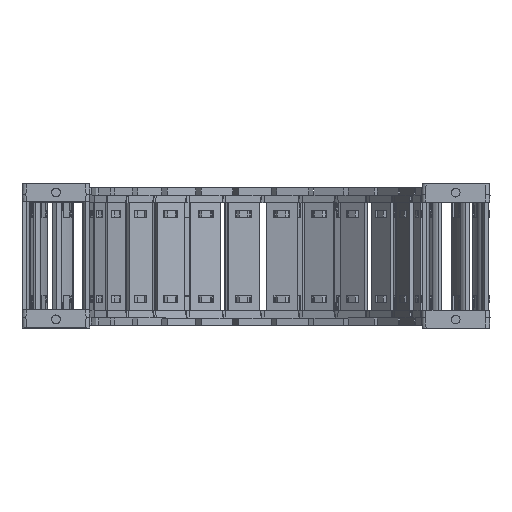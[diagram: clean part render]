
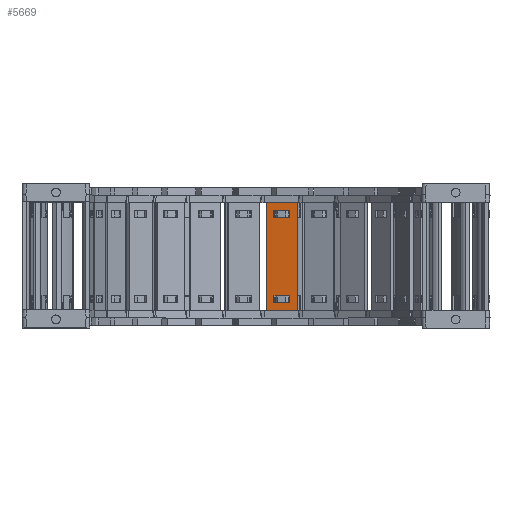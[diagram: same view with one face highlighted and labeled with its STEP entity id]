
A CAD part, top view. The second image highlights one B-rep face of the part: STEP entity #5669.
In plain terms, the highlighted planar face has unit normal (-0.182, 0, 0.983) as drawn and (0, 1, 0) by its records, which use the part's own axes.
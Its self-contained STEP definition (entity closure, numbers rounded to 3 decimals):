
#5089=DIRECTION('',(0.,0.,1.));
#5090=VECTOR('',#5089,15.8);
#5091=CARTESIAN_POINT('',(40.24,1.5,-7.9));
#5092=LINE('',#5091,#5090);
#5093=DIRECTION('',(-1.,0.,0.));
#5094=VECTOR('',#5093,55.);
#5095=CARTESIAN_POINT('',(40.24,1.5,7.9));
#5096=LINE('',#5095,#5094);
#5097=DIRECTION('',(0.,0.,-1.));
#5098=VECTOR('',#5097,15.8);
#5099=CARTESIAN_POINT('',(-14.76,1.5,7.9));
#5100=LINE('',#5099,#5098);
#5101=DIRECTION('',(1.,0.,0.));
#5102=VECTOR('',#5101,3.648);
#5103=CARTESIAN_POINT('',(32.622,1.5,4.075));
#5104=LINE('',#5103,#5102);
#5105=DIRECTION('',(0.,0.,-1.));
#5106=VECTOR('',#5105,8.15);
#5107=CARTESIAN_POINT('',(36.27,1.5,4.075));
#5108=LINE('',#5107,#5106);
#5109=DIRECTION('',(-1.,0.,0.));
#5110=VECTOR('',#5109,3.648);
#5111=CARTESIAN_POINT('',(36.27,1.5,-4.075));
#5112=LINE('',#5111,#5110);
#5113=DIRECTION('',(0.,0.,-1.));
#5114=VECTOR('',#5113,8.15);
#5115=CARTESIAN_POINT('',(-7.142,1.5,4.075));
#5116=LINE('',#5115,#5114);
#5117=DIRECTION('',(-1.,0.,0.));
#5118=VECTOR('',#5117,3.648);
#5119=CARTESIAN_POINT('',(-7.142,1.5,-4.075));
#5120=LINE('',#5119,#5118);
#5121=DIRECTION('',(0.,0.,1.));
#5122=VECTOR('',#5121,8.15);
#5123=CARTESIAN_POINT('',(-10.79,1.5,-4.075));
#5124=LINE('',#5123,#5122);
#5125=DIRECTION('',(1.,0.,0.));
#5126=VECTOR('',#5125,3.648);
#5127=CARTESIAN_POINT('',(-10.79,1.5,4.075));
#5128=LINE('',#5127,#5126);
#5133=DIRECTION('',(-1.,0.,0.));
#5134=VECTOR('',#5133,55.);
#5135=CARTESIAN_POINT('',(40.24,1.5,-7.9));
#5136=LINE('',#5135,#5134);
#5254=DIRECTION('',(0.,0.,-1.));
#5255=VECTOR('',#5254,8.15);
#5256=CARTESIAN_POINT('',(32.622,1.5,4.075));
#5257=LINE('',#5256,#5255);
#5439=CARTESIAN_POINT('',(36.27,1.5,4.075));
#5440=VERTEX_POINT('',#5439);
#5441=CARTESIAN_POINT('',(32.622,1.5,4.075));
#5442=VERTEX_POINT('',#5441);
#5483=CARTESIAN_POINT('',(32.622,1.5,-4.075));
#5484=VERTEX_POINT('',#5483);
#5485=CARTESIAN_POINT('',(36.27,1.5,-4.075));
#5486=VERTEX_POINT('',#5485);
#5487=CARTESIAN_POINT('',(40.24,1.5,7.9));
#5489=VERTEX_POINT('',#5487);
#5491=CARTESIAN_POINT('',(40.24,1.5,-7.9));
#5492=VERTEX_POINT('',#5491);
#5515=CARTESIAN_POINT('',(-7.142,1.5,4.075));
#5516=CARTESIAN_POINT('',(-7.142,1.5,-4.075));
#5517=VERTEX_POINT('',#5515);
#5518=VERTEX_POINT('',#5516);
#5519=CARTESIAN_POINT('',(-10.79,1.5,-4.075));
#5520=VERTEX_POINT('',#5519);
#5521=CARTESIAN_POINT('',(-10.79,1.5,4.075));
#5522=VERTEX_POINT('',#5521);
#5523=CARTESIAN_POINT('',(-14.76,1.5,7.9));
#5524=VERTEX_POINT('',#5523);
#5527=CARTESIAN_POINT('',(-14.76,1.5,-7.9));
#5528=VERTEX_POINT('',#5527);
#5638=CARTESIAN_POINT('',(71.98,1.5,10.061));
#5639=DIRECTION('',(0.,-1.,0.));
#5640=DIRECTION('',(0.,0.,-1.));
#5641=AXIS2_PLACEMENT_3D('',#5638,#5639,#5640);
#5642=PLANE('',#5641);
#5643=ORIENTED_EDGE('',*,*,#5577,.T.);
#5644=ORIENTED_EDGE('',*,*,#5603,.T.);
#5645=ORIENTED_EDGE('',*,*,#5616,.T.);
#5647=ORIENTED_EDGE('',*,*,#5646,.F.);
#5648=EDGE_LOOP('',(#5643,#5644,#5645,#5647));
#5649=FACE_OUTER_BOUND('',#5648,.F.);
#5651=ORIENTED_EDGE('',*,*,#5650,.F.);
#5652=ORIENTED_EDGE('',*,*,#5540,.T.);
#5654=ORIENTED_EDGE('',*,*,#5653,.T.);
#5656=ORIENTED_EDGE('',*,*,#5655,.T.);
#5657=EDGE_LOOP('',(#5651,#5652,#5654,#5656));
#5658=FACE_BOUND('',#5657,.F.);
#5660=ORIENTED_EDGE('',*,*,#5659,.T.);
#5662=ORIENTED_EDGE('',*,*,#5661,.T.);
#5664=ORIENTED_EDGE('',*,*,#5663,.T.);
#5666=ORIENTED_EDGE('',*,*,#5665,.T.);
#5667=EDGE_LOOP('',(#5660,#5662,#5664,#5666));
#5668=FACE_BOUND('',#5667,.F.);
#5669=ADVANCED_FACE('',(#5649,#5658,#5668),#5642,.F.);
#5540=EDGE_CURVE('',#5442,#5440,#5104,.T.);
#5577=EDGE_CURVE('',#5492,#5489,#5092,.T.);
#5603=EDGE_CURVE('',#5489,#5524,#5096,.T.);
#5616=EDGE_CURVE('',#5524,#5528,#5100,.T.);
#5646=EDGE_CURVE('',#5492,#5528,#5136,.T.);
#5650=EDGE_CURVE('',#5442,#5484,#5257,.T.);
#5653=EDGE_CURVE('',#5440,#5486,#5108,.T.);
#5655=EDGE_CURVE('',#5486,#5484,#5112,.T.);
#5659=EDGE_CURVE('',#5517,#5518,#5116,.T.);
#5661=EDGE_CURVE('',#5518,#5520,#5120,.T.);
#5663=EDGE_CURVE('',#5520,#5522,#5124,.T.);
#5665=EDGE_CURVE('',#5522,#5517,#5128,.T.);
